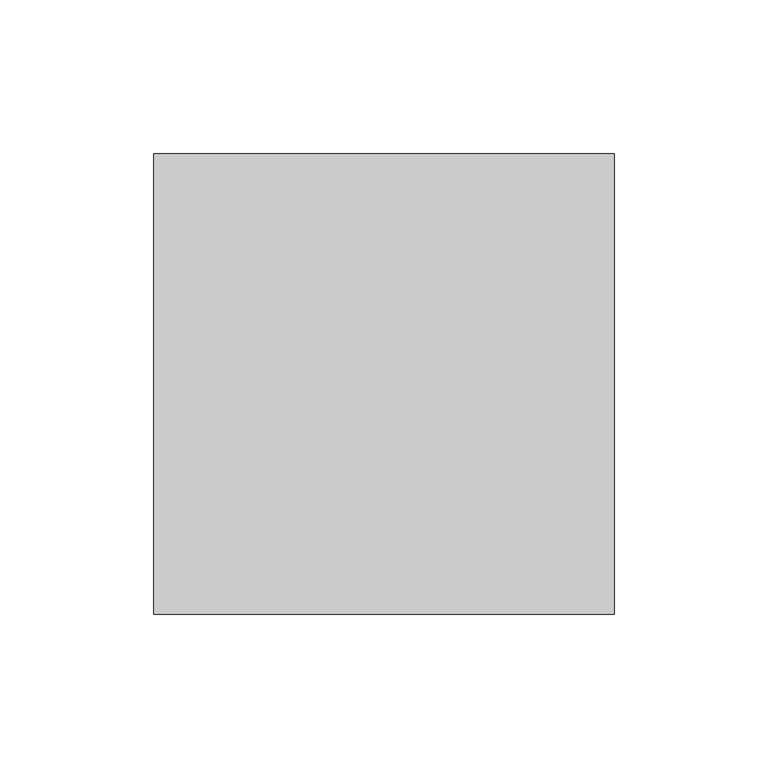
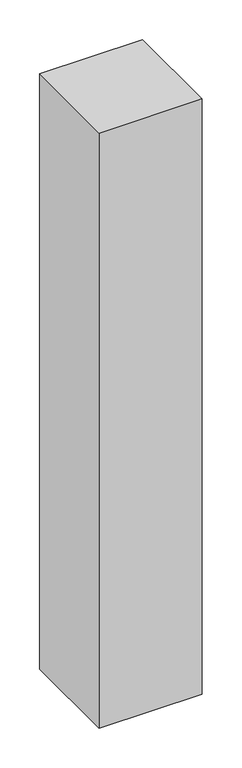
"""IFC4 building model written with IfcOpenShell, lengths in millimetres: proxy geometry, Брус : 150х150."""

from ifc_helpers import new_model, si_unit, origin, origin_with_axes, place, context, project, spatial, polyline, outline, extrude, source, transform, mapped, element, save


def generic_models_638b450d(model_context):
    return source(origin(), model_context, "Body", "SweptSolid", [
        extrude(outline(polyline([(150.0, 0.0), (0.0, 0.0), (0.0, 150.0), (150.0, 150.0), (150.0, 0.0)])), origin_with_axes(), (0.0, 0.0, 1.0), 915.0),
    ])


if __name__ == "__main__":
    model = new_model("IFC4")
    model_context = context("Model", 3, world=origin())
    ifc_project = project(units=[si_unit("LENGTHUNIT", "METRE", prefix="MILLI")], contexts=[model_context])
    site = spatial("IfcSite", under=ifc_project)
    building = spatial("IfcBuilding", under=site)
    placement = place(None, origin())
    generic_models_shape = generic_models_638b450d(model_context)
    element("IfcBuildingElementProxy", 1, Name="Брус : 150х150", ObjectType="Брус : 150х150", at=placement, inside=building, context=model_context, shape_type="MappedRepresentation", body=[
        mapped(generic_models_shape, transform((0.0, 0.0, 0.0), x_axis=(1.0, 0.0, 0.0), y_axis=(0.0, 1.0, 0.0), z_axis=(0.0, 0.0, 1.0))),
    ])
    save(model, "model.ifc")
